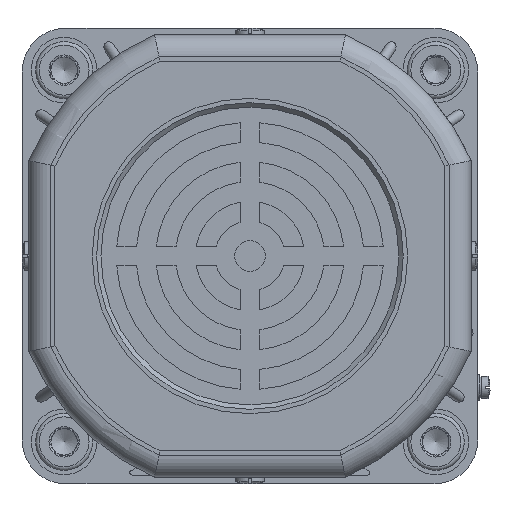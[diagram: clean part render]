
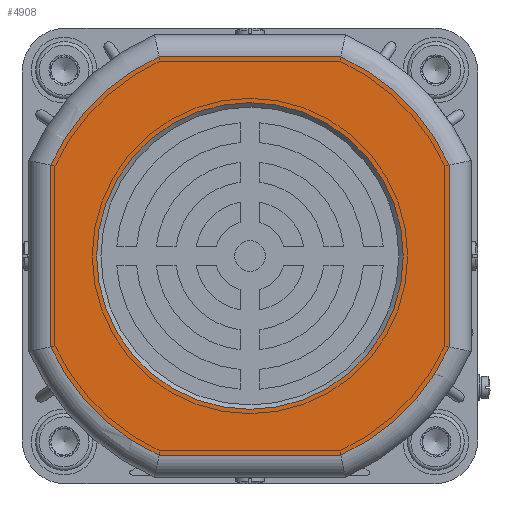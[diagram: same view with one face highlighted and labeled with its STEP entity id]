
A CAD part, left-side view. The second image highlights one B-rep face of the part: STEP entity #4908.
In plain terms, the highlighted planar face has unit normal (-1, 0, 0).
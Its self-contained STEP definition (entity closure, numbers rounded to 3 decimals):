
#3372=FACE_BOUND('',#8928,.T.);
#3373=FACE_BOUND('',#8929,.T.);
#4908=ADVANCED_FACE('',(#3372,#3373),#5785,.F.);
#5785=PLANE('',#32275);
#8928=EDGE_LOOP('',(#17095,#17096,#17097,#17098,#17099,#17100,#17101,#17102));
#8929=EDGE_LOOP('',(#17103));
#17095=ORIENTED_EDGE('',*,*,#24439,.T.);
#17096=ORIENTED_EDGE('',*,*,#24420,.T.);
#17097=ORIENTED_EDGE('',*,*,#24425,.T.);
#17098=ORIENTED_EDGE('',*,*,#24429,.T.);
#17099=ORIENTED_EDGE('',*,*,#24433,.T.);
#17100=ORIENTED_EDGE('',*,*,#24437,.T.);
#17101=ORIENTED_EDGE('',*,*,#24442,.T.);
#17102=ORIENTED_EDGE('',*,*,#24443,.T.);
#17103=ORIENTED_EDGE('',*,*,#24611,.T.);
#20714=VERTEX_POINT('',#51406);
#20715=VERTEX_POINT('',#51408);
#20717=VERTEX_POINT('',#51426);
#20719=VERTEX_POINT('',#51439);
#20721=VERTEX_POINT('',#51452);
#20723=VERTEX_POINT('',#51465);
#20724=VERTEX_POINT('',#51474);
#20725=VERTEX_POINT('',#51485);
#20845=VERTEX_POINT('',#51848);
#24420=EDGE_CURVE('',#20715,#20714,#29663,.T.);
#24425=EDGE_CURVE('',#20714,#20717,#26321,.T.);
#24429=EDGE_CURVE('',#20717,#20719,#29665,.T.);
#24433=EDGE_CURVE('',#20719,#20721,#26325,.T.);
#24437=EDGE_CURVE('',#20721,#20723,#29667,.T.);
#24439=EDGE_CURVE('',#20724,#20715,#26328,.T.);
#24442=EDGE_CURVE('',#20723,#20725,#26329,.T.);
#24443=EDGE_CURVE('',#20725,#20724,#29669,.T.);
#24611=EDGE_CURVE('',#20845,#20845,#29741,.T.);
#26321=LINE('',#51427,#27691);
#26325=LINE('',#51453,#27695);
#26328=LINE('',#51475,#27698);
#26329=LINE('',#51486,#27699);
#27691=VECTOR('',#37981,1.);
#27695=VECTOR('',#37997,1.);
#27698=VECTOR('',#38008,1.);
#27699=VECTOR('',#38015,1.);
#29663=CIRCLE('',#32098,50.);
#29665=CIRCLE('',#32104,50.);
#29667=CIRCLE('',#32110,50.);
#29669=CIRCLE('',#32116,50.);
#29741=CIRCLE('',#32260,35.);
#32098=AXIS2_PLACEMENT_3D('',#51407,#37972,#37973);
#32104=AXIS2_PLACEMENT_3D('',#51440,#37988,#37989);
#32110=AXIS2_PLACEMENT_3D('',#51466,#38004,#38005);
#32116=AXIS2_PLACEMENT_3D('',#51488,#38018,#38019);
#32260=AXIS2_PLACEMENT_3D('',#51847,#38402,#38403);
#32275=AXIS2_PLACEMENT_3D('',#51863,#38432,#38433);
#37972=DIRECTION('',(-1.,0.,0.));
#37973=DIRECTION('',(0.,0.,1.));
#37981=DIRECTION('',(0.,0.,1.));
#37988=DIRECTION('',(-1.,0.,0.));
#37989=DIRECTION('',(0.,0.,1.));
#37997=DIRECTION('',(0.,1.,0.));
#38004=DIRECTION('',(-1.,0.,0.));
#38005=DIRECTION('',(0.,0.,1.));
#38008=DIRECTION('',(0.,-1.,0.));
#38015=DIRECTION('',(0.,0.,-1.));
#38018=DIRECTION('',(-1.,0.,0.));
#38019=DIRECTION('',(0.,0.,1.));
#38402=DIRECTION('',(1.,0.,0.));
#38403=DIRECTION('',(0.,-1.,0.));
#38432=DIRECTION('',(1.,0.,0.));
#38433=DIRECTION('',(0.,0.,1.));
#51406=CARTESIAN_POINT('',(-280.374,-47.339,-20.73));
#51407=CARTESIAN_POINT('',(-280.374,-1.839,0.));
#51408=CARTESIAN_POINT('',(-280.374,-22.569,-45.5));
#51426=CARTESIAN_POINT('',(-280.374,-47.339,20.73));
#51427=CARTESIAN_POINT('',(-280.374,-47.339,21.789));
#51439=CARTESIAN_POINT('',(-280.374,-22.569,45.5));
#51440=CARTESIAN_POINT('',(-280.374,-1.839,0.));
#51452=CARTESIAN_POINT('',(-280.374,18.891,45.5));
#51453=CARTESIAN_POINT('',(-280.374,19.95,45.5));
#51465=CARTESIAN_POINT('',(-280.374,43.661,20.73));
#51466=CARTESIAN_POINT('',(-280.374,-1.839,0.));
#51474=CARTESIAN_POINT('',(-280.374,18.891,-45.5));
#51475=CARTESIAN_POINT('',(-280.374,-23.628,-45.5));
#51485=CARTESIAN_POINT('',(-280.374,43.661,-20.73));
#51486=CARTESIAN_POINT('',(-280.374,43.661,-21.789));
#51488=CARTESIAN_POINT('',(-280.374,-1.839,0.));
#51847=CARTESIAN_POINT('',(-280.374,-1.839,0.));
#51848=CARTESIAN_POINT('',(-280.374,-36.839,0.));
#51863=CARTESIAN_POINT('',(-280.374,-1.839,0.));
